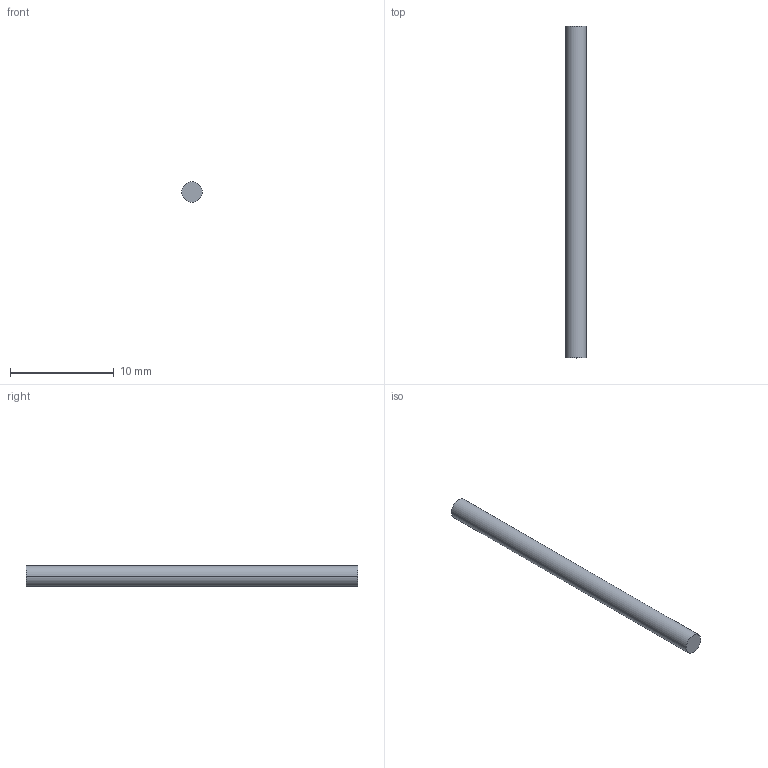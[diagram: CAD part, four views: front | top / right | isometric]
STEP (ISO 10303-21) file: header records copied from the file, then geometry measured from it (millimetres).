
FILE_DESCRIPTION((''),'2;1');
FILE_NAME('2MM00','2024-02-22T15:44:30',('qinghui.yi'),(''),'CREO PARAMETRIC BY PTC INC, 2019164','CREO PARAMETRIC BY PTC INC, 2019164','');
FILE_SCHEMA(('CONFIG_CONTROL_DESIGN','SHAPE_APPEARANCE_LAYERS_GROUPS'));
Length unit declared in the file: millimetre
Products named in the file (1): 2MM00
Bounding box: 2 x 32 x 2 mm (x, y, z)
Volume: 100.5 mm3; surface area: 207.3 mm2
Topology: 1 solids, 1 shells, 4 faces, 9 edges, 10 vertices
Faces by surface type: plane 2, cylinder 2
Entity records: 493 total; most frequent: COLOUR_RGB 312, DIRECTION 23, CARTESIAN_POINT 18, ORIENTED_EDGE 12, AXIS2_PLACEMENT_3D 9, DRAUGHTING_PRE_DEFINED_COLOUR 8, EDGE_CURVE 6, VECTOR 5
